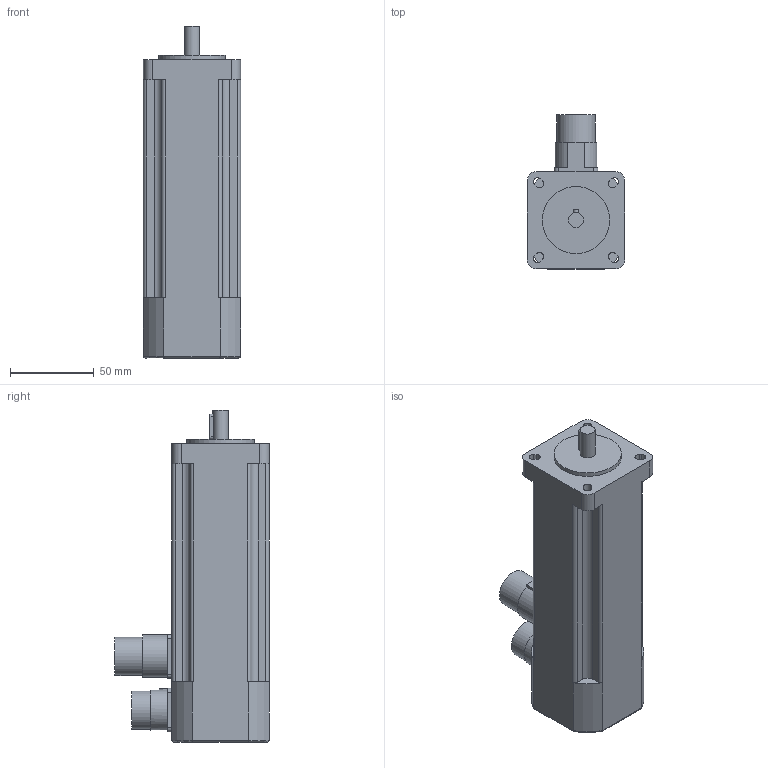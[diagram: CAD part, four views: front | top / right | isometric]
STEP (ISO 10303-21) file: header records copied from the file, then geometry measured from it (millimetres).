
FILE_DESCRIPTION(/* description */ (''),/* implementation_level */ '2;1');
FILE_NAME(/* name */ '\\Lafnas01\disegni\Archivi Lafert\3D\CAD 3D\MODELLI\Assiemi clienti\Serad\Modelli 3D Serad\B28I\Resolver\Res Without Brake\B2801Ixx4A050033.ipt.stp',/* time_stamp */ '2015-09-07T10:48:14+02:00',/* author */ ('Pastrello Ylenia'),/* organization */ (''),/* preprocessor_version */ 'ST-DEVELOPER v15.6',/* originating_system */ 'Autodesk Inventor 2015',/* authorisation */ '');
FILE_SCHEMA (('AUTOMOTIVE_DESIGN { 1 0 10303 214 3 1 1 }'));
Length unit declared in the file: millimetre
Products named in the file (1): B2801Ixx4A050033
Bounding box: 58 x 92 x 198 mm (x, y, z)
Volume: 557213.6 mm3; surface area: 51789.4 mm2
Topology: 1 solids, 1 shells, 133 faces, 356 edges, 231 vertices
Faces by surface type: plane 71, cylinder 58, torus 4
Full cylindrical faces by diameter (mm): 9 x1, 22.7 x2, 24 x1, 40 x1
Entity records: 4247 total; most frequent: CARTESIAN_POINT 847, DIRECTION 719, ORIENTED_EDGE 696, EDGE_CURVE 347, AXIS2_PLACEMENT_3D 250, VERTEX_POINT 228, LINE 219, VECTOR 219
